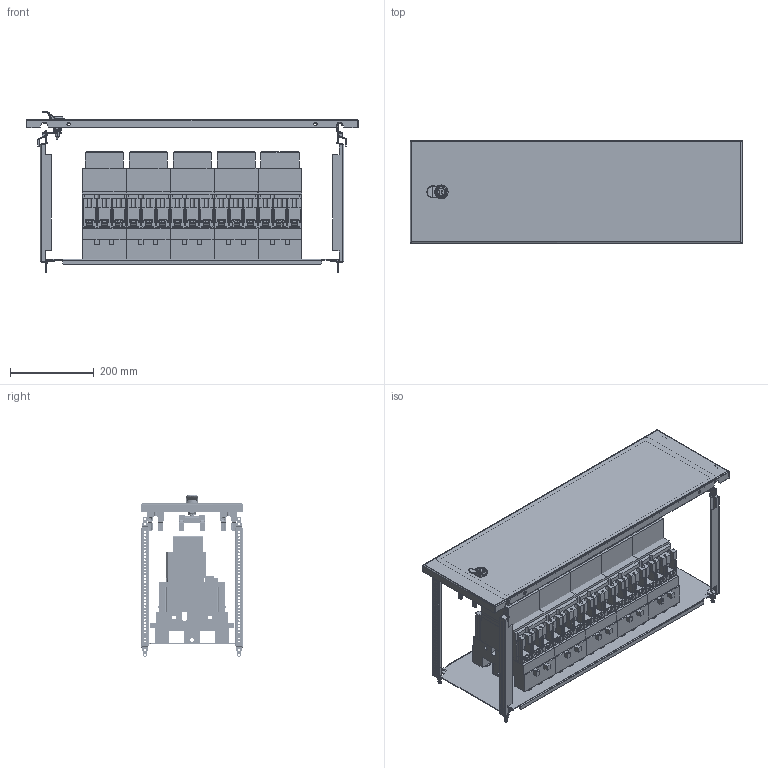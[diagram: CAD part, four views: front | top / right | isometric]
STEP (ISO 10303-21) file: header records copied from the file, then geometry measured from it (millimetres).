
FILE_DESCRIPTION(('CAx-IF Rec.Pracs.---Model Styling and Organization---1.2---2011-12-15','CAx-IF Rec.Pracs.---Geometric and Assembly Validation Properties---4.1---2014-06-16','CAx-IF Rec.Pracs.---PMI Polyline Presentation---2.0---2013-05-24'),'2;1');
FILE_NAME('R5PKEB7V82213 (P-MO).stp','2021-07-29T02:57:47+03:00',(''),(''),'STEP Interface 4.4 by CT CoreTechnologie','3D_Evolution4.4 by CT CoreTechnologie','');
FILE_SCHEMA(('AUTOMOTIVE_DESIGN { 1 0 10303 214 1 1 1 1 }'));
Length unit declared in the file: millimetre
Products named in the file (1): R5PKEB7V82213 (P-MO)
Bounding box: 794 x 245 x 386.89 mm (x, y, z)
Surface area: 2645847.6 mm2 (no closed solid volume)
Topology: 0 solids, 102 shells, 5951 faces, 16977 edges, 11243 vertices
Faces by surface type: plane 4210, cylinder 1296, bspline 445
Entity records: 202889 total; most frequent: CARTESIAN_POINT 46240, ORIENTED_EDGE 33792, DIRECTION 30617, EDGE_CURVE 16916, VECTOR 13563, LINE 13563, VERTEX_POINT 11328, AXIS2_PLACEMENT_3D 8527
